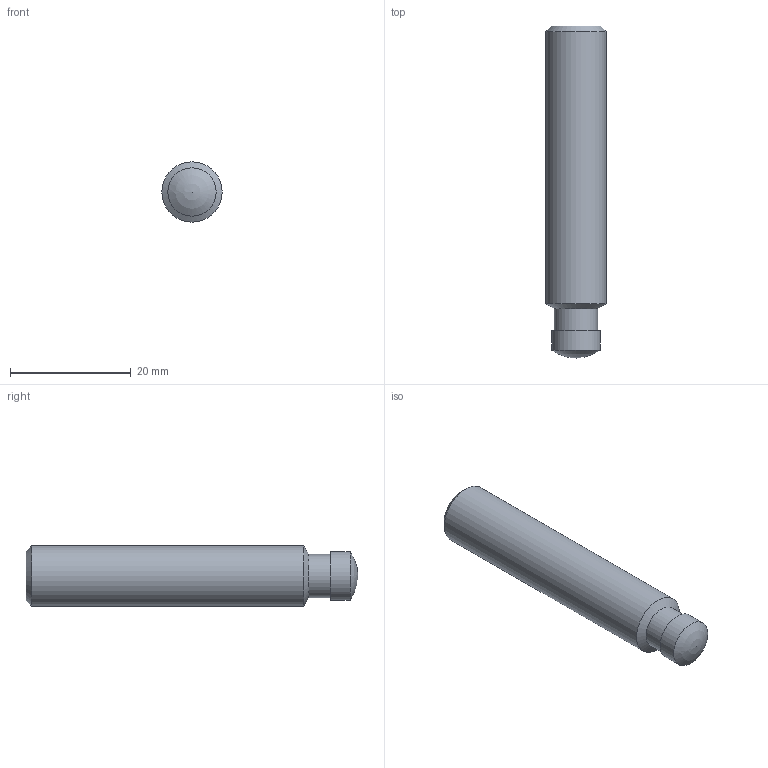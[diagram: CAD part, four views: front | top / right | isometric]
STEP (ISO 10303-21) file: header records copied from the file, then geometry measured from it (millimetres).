
FILE_DESCRIPTION( ( 'STEP AP203' ), '1' );
FILE_NAME( 'C:/Temp/Ganter_Step_05_03_2020/data/3_2/din6332/din6332_ni/Stainless Steel-Grub screw DIN 6332-M10-55-SKN-NI.stp', '2020-03-13T05:16:42', ( 'License CC BY-ND 4.0' ), ( 'CADENAS' ), ' ', 'PARTsolutions', ' ' );
FILE_SCHEMA( ( 'CONFIG_CONTROL_DESIGN' ) );
Length unit declared in the file: millimetre
Products named in the file (1): _Stainless Steel-Grub screw DIN 6332-M10-55-SKN-NI
Bounding box: 10 x 55 x 10 mm (x, y, z)
Volume: 3927.5 mm3; surface area: 1830.1 mm2
Topology: 1 solids, 1 shells, 15 faces, 33 edges, 21 vertices
Faces by surface type: plane 9, cylinder 3, cone 2, sphere 1
Full cylindrical faces by diameter (mm): 7.2 x1, 8 x1, 10 x1
Entity records: 410 total; most frequent: DIRECTION 64, CARTESIAN_POINT 61, ORIENTED_EDGE 50, EDGE_CURVE 25, AXIS2_PLACEMENT_3D 23, EDGE_LOOP 22, VERTEX_POINT 20, FACE_OUTER_BOUND 18
